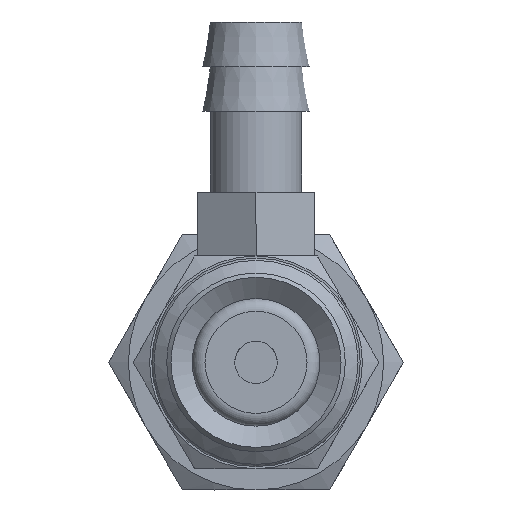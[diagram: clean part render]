
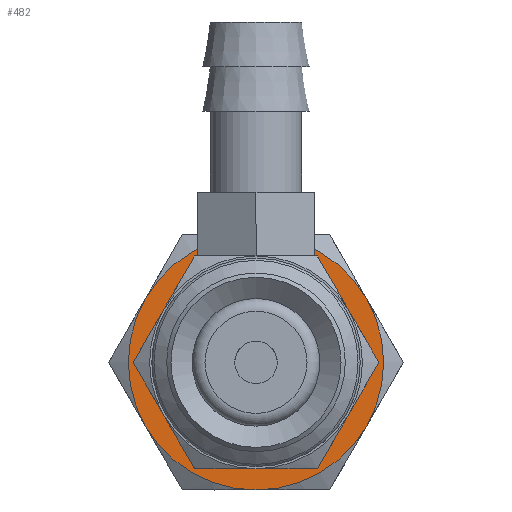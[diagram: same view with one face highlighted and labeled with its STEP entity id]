
A CAD part, front view. The second image highlights one B-rep face of the part: STEP entity #482.
In plain terms, the highlighted planar face has unit normal (0, -1, 0) as drawn and (-1, 0, 0) by its records, which use the part's own axes.
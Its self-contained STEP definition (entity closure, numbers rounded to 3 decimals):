
#482=ADVANCED_FACE('',(#648,#649),#650,.F.);
#648=FACE_BOUND('',#974,.T.);
#649=FACE_OUTER_BOUND('',#975,.T.);
#650=PLANE('',#976);
#974=EDGE_LOOP('',(#1416));
#975=EDGE_LOOP('',(#1417,#1418,#1419,#1420,#1421,#1422));
#976=AXIS2_PLACEMENT_3D('',#1423,#1424,#1425);
#1416=ORIENTED_EDGE('',*,*,#2162,.T.);
#1417=ORIENTED_EDGE('',*,*,#2125,.F.);
#1418=ORIENTED_EDGE('',*,*,#2142,.F.);
#1419=ORIENTED_EDGE('',*,*,#2154,.F.);
#1420=ORIENTED_EDGE('',*,*,#2163,.F.);
#1421=ORIENTED_EDGE('',*,*,#2161,.F.);
#1422=ORIENTED_EDGE('',*,*,#2146,.F.);
#1423=CARTESIAN_POINT('',(0.,0.0,0.0));
#1424=DIRECTION('',(1.0,0.0,0.0));
#1425=DIRECTION('',(0.0,1.0,0.0));
#2125=EDGE_CURVE('',#2376,#2378,#2379,.T.);
#2142=EDGE_CURVE('',#2405,#2376,#2408,.T.);
#2146=EDGE_CURVE('',#2378,#2414,#2415,.T.);
#2154=EDGE_CURVE('',#2427,#2405,#2428,.T.);
#2161=EDGE_CURVE('',#2414,#2435,#2437,.T.);
#2162=EDGE_CURVE('',#2438,#2438,#2439,.T.);
#2163=EDGE_CURVE('',#2435,#2427,#2440,.T.);
#2376=VERTEX_POINT('',#2796);
#2378=VERTEX_POINT('',#2808);
#2379=CIRCLE('',#2809,6.0);
#2405=VERTEX_POINT('',#2919);
#2408=CIRCLE('',#2942,6.0);
#2414=VERTEX_POINT('',#2958);
#2415=CIRCLE('',#2959,6.0);
#2427=VERTEX_POINT('',#3021);
#2428=CIRCLE('',#3022,6.0);
#2435=VERTEX_POINT('',#3060);
#2437=CIRCLE('',#3072,6.0);
#2438=VERTEX_POINT('',#3073);
#2439=CIRCLE('',#3074,4.0);
#2440=CIRCLE('',#3075,6.0);
#2796=CARTESIAN_POINT('',(0.,5.196,-3.0));
#2808=CARTESIAN_POINT('',(0.,5.196,3.0));
#2809=AXIS2_PLACEMENT_3D('',#3613,#3614,#3615);
#2919=CARTESIAN_POINT('',(0.,0.0,-6.0));
#2942=AXIS2_PLACEMENT_3D('',#3626,#3627,#3628);
#2958=CARTESIAN_POINT('',(0.,0.0,6.0));
#2959=AXIS2_PLACEMENT_3D('',#3635,#3636,#3637);
#3021=CARTESIAN_POINT('',(0.,-5.196,-3.0));
#3022=AXIS2_PLACEMENT_3D('',#3644,#3645,#3646);
#3060=CARTESIAN_POINT('',(0.,-5.196,3.0));
#3072=AXIS2_PLACEMENT_3D('',#3651,#3652,#3653);
#3073=CARTESIAN_POINT('',(0.,0.0,-4.0));
#3074=AXIS2_PLACEMENT_3D('',#3654,#3655,#3656);
#3075=AXIS2_PLACEMENT_3D('',#3657,#3658,#3659);
#3613=CARTESIAN_POINT('',(0.,0.0,0.0));
#3614=DIRECTION('',(1.0,0.0,0.0));
#3615=DIRECTION('',(0.0,0.0,-1.0));
#3626=CARTESIAN_POINT('',(0.,0.0,0.0));
#3627=DIRECTION('',(1.0,0.0,0.0));
#3628=DIRECTION('',(0.0,0.0,-1.0));
#3635=CARTESIAN_POINT('',(0.,0.0,0.0));
#3636=DIRECTION('',(1.0,0.0,0.0));
#3637=DIRECTION('',(0.0,0.0,-1.0));
#3644=CARTESIAN_POINT('',(0.,0.0,0.0));
#3645=DIRECTION('',(1.0,0.0,0.0));
#3646=DIRECTION('',(0.0,0.0,-1.0));
#3651=CARTESIAN_POINT('',(0.,0.0,0.0));
#3652=DIRECTION('',(1.0,0.0,0.0));
#3653=DIRECTION('',(0.0,0.0,-1.0));
#3654=CARTESIAN_POINT('',(0.,0.0,0.0));
#3655=DIRECTION('',(1.0,0.0,0.0));
#3656=DIRECTION('',(0.0,0.0,-1.0));
#3657=CARTESIAN_POINT('',(0.,0.0,0.0));
#3658=DIRECTION('',(1.0,0.0,0.0));
#3659=DIRECTION('',(0.0,0.0,-1.0));
